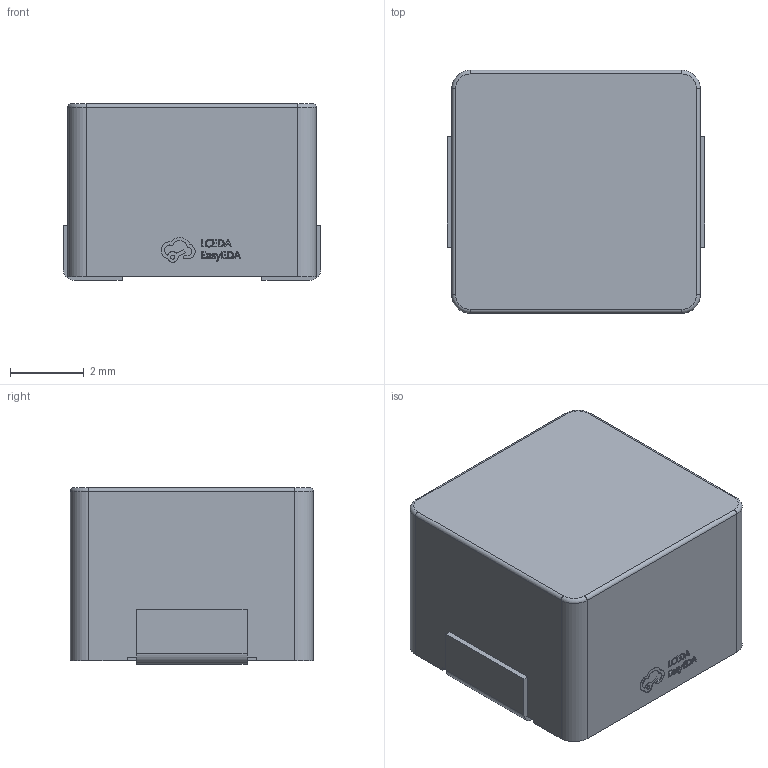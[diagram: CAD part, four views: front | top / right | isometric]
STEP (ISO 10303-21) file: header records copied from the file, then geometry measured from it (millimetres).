
FILE_DESCRIPTION(('Designed by EasyEDA Pro'),'2;1');
FILE_NAME('Open CASCADE Shape Model','2025-11-06T18:22:09',('Author'),( 'Open CASCADE'),'Open CASCADE STEP processor 7.6','Open CASCADE 7.8' ,'Unknown');
FILE_SCHEMA(('AUTOMOTIVE_DESIGN_CC2 { 1 2 10303 214 -1 1 5 4 }'));
Length unit declared in the file: millimetre
Products named in the file (4): PCBModel; ypNe-L1; IND-SMD_SRYH.0650C.YF2R2MT00; COMPOUND
Assembly tree (3 placements, depth 4):
  PCBModel
    ypNe-L1
      IND-SMD_SRYH.0650C.YF2R2MT00
        COMPOUND
Bounding box: 7 x 6.61 x 4.8 mm (x, y, z)
Volume: 209.6 mm3; surface area: 248.4 mm2
Topology: 16 solids, 16 shells, 277 faces, 727 edges, 482 vertices
Faces by surface type: plane 163, bspline 98, cylinder 12, torus 4
Entity records: 11824 total; most frequent: CARTESIAN_POINT 2796, ORIENTED_EDGE 1454, DIRECTION 921, EDGE_CURVE 727, LINE 499, VECTOR 499, VERTEX_POINT 482, SURFACE_STYLE_USAGE 309
